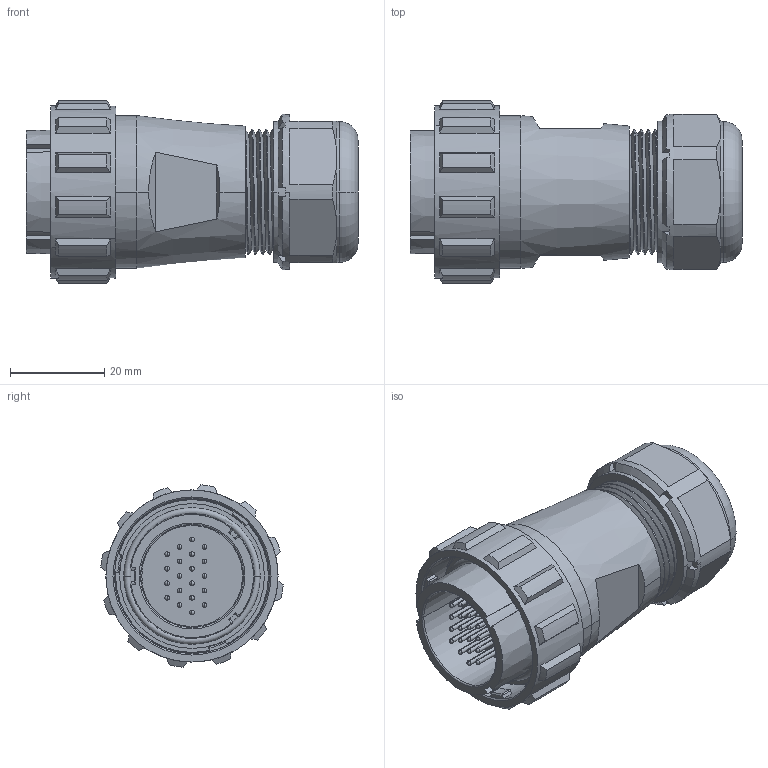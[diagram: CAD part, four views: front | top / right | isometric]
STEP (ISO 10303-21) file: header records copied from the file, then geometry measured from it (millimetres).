
FILE_DESCRIPTION((''),'2;1');
FILE_NAME('PRT0001','2021-03-22T',('Administrator'),(''),'CREO PARAMETRIC BY PTC INC, 2016130','CREO PARAMETRIC BY PTC INC, 2016130','');
FILE_SCHEMA(('AUTOMOTIVE_DESIGN { 1 0 10303 214 1 1 1 1 }'));
Length unit declared in the file: millimetre
Products named in the file (1): PRT0001
Bounding box: 70.6 x 38.81 x 38.81 mm (x, y, z)
Volume: 47604 mm3; surface area: 14080.3 mm2
Topology: 1 solids, 1 shells, 307 faces, 792 edges, 486 vertices
Faces by surface type: plane 102, cylinder 101, cone 47, sphere 40, torus 11, bspline 6
Entity records: 10838 total; most frequent: CARTESIAN_POINT 3529, DIRECTION 1536, ORIENTED_EDGE 1504, EDGE_CURVE 752, AXIS2_PLACEMENT_3D 637, VERTEX_POINT 486, EDGE_LOOP 352, CIRCLE 336
